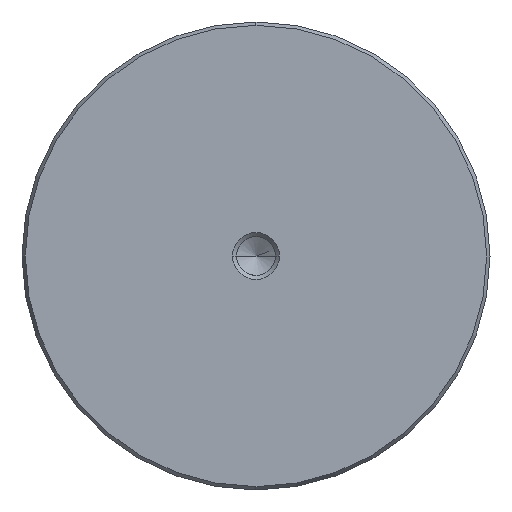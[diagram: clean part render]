
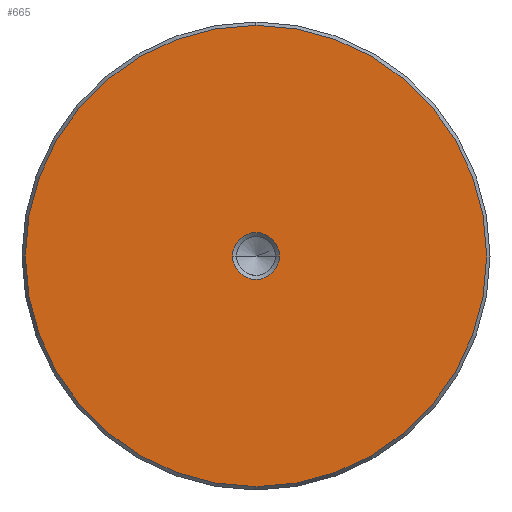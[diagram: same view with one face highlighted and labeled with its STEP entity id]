
A CAD part, left-side view. The second image highlights one B-rep face of the part: STEP entity #665.
In plain terms, the highlighted planar face has unit normal (-1, 0, 0).
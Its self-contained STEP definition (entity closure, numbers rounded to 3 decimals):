
#579=CARTESIAN_POINT('Vertex',(0.,0.,-39.423)) ;
#582=CARTESIAN_POINT('Axis2P3D Location',(0.,0.,0.)) ;
#586=CARTESIAN_POINT('Vertex',(0.,39.423,0.)) ;
#589=CARTESIAN_POINT('Axis2P3D Location',(0.,0.,0.)) ;
#593=CARTESIAN_POINT('Vertex',(0.,0.,39.423)) ;
#615=CARTESIAN_POINT('Axis2P3D Location',(0.,0.,0.)) ;
#619=CARTESIAN_POINT('Vertex',(0.,-39.423,0.)) ;
#622=CARTESIAN_POINT('Axis2P3D Location',(0.,0.,0.)) ;
#636=CARTESIAN_POINT('Axis2P3D Location',(0.,0.,0.)) ;
#647=CARTESIAN_POINT('Axis2P3D Location',(0.,0.,0.)) ;
#651=CARTESIAN_POINT('Vertex',(0.,4.,0.)) ;
#653=CARTESIAN_POINT('Vertex',(0.,-4.,0.)) ;
#656=CARTESIAN_POINT('Axis2P3D Location',(0.,0.,0.)) ;
#583=DIRECTION('Axis2P3D Direction',(1.,0.,-0.)) ;
#590=DIRECTION('Axis2P3D Direction',(1.,0.,-0.)) ;
#616=DIRECTION('Axis2P3D Direction',(1.,0.,-0.)) ;
#623=DIRECTION('Axis2P3D Direction',(1.,0.,-0.)) ;
#637=DIRECTION('Axis2P3D Direction',(1.,0.,-0.)) ;
#638=DIRECTION('Axis2P3D XDirection',(-0.,0.,-1.)) ;
#648=DIRECTION('Axis2P3D Direction',(1.,0.,-0.)) ;
#657=DIRECTION('Axis2P3D Direction',(1.,0.,-0.)) ;
#584=AXIS2_PLACEMENT_3D('Circle Axis2P3D',#582,#583,$) ;
#591=AXIS2_PLACEMENT_3D('Circle Axis2P3D',#589,#590,$) ;
#617=AXIS2_PLACEMENT_3D('Circle Axis2P3D',#615,#616,$) ;
#624=AXIS2_PLACEMENT_3D('Circle Axis2P3D',#622,#623,$) ;
#639=AXIS2_PLACEMENT_3D('Plane Axis2P3D',#636,#637,#638) ;
#649=AXIS2_PLACEMENT_3D('Circle Axis2P3D',#647,#648,$) ;
#658=AXIS2_PLACEMENT_3D('Circle Axis2P3D',#656,#657,$) ;
#642=ORIENTED_EDGE('',*,*,#588,.F.) ;
#643=ORIENTED_EDGE('',*,*,#626,.F.) ;
#644=ORIENTED_EDGE('',*,*,#621,.F.) ;
#645=ORIENTED_EDGE('',*,*,#595,.F.) ;
#662=ORIENTED_EDGE('',*,*,#655,.T.) ;
#663=ORIENTED_EDGE('',*,*,#660,.T.) ;
#664=FACE_BOUND('',#661,.T.) ;
#665=ADVANCED_FACE('720-80x500',(#646,#664),#640,.F.) ;
#585=CIRCLE('generated circle',#584,39.423) ;
#592=CIRCLE('generated circle',#591,39.423) ;
#618=CIRCLE('generated circle',#617,39.423) ;
#625=CIRCLE('generated circle',#624,39.423) ;
#650=CIRCLE('generated circle',#649,4.) ;
#659=CIRCLE('generated circle',#658,4.) ;
#588=EDGE_CURVE('',#580,#587,#585,.T.) ;
#595=EDGE_CURVE('',#587,#594,#592,.T.) ;
#621=EDGE_CURVE('',#594,#620,#618,.T.) ;
#626=EDGE_CURVE('',#620,#580,#625,.T.) ;
#655=EDGE_CURVE('',#652,#654,#650,.T.) ;
#660=EDGE_CURVE('',#654,#652,#659,.T.) ;
#641=EDGE_LOOP('',(#642,#643,#644,#645)) ;
#661=EDGE_LOOP('',(#662,#663)) ;
#646=FACE_OUTER_BOUND('',#641,.T.) ;
#640=PLANE('Plane',#639) ;
#580=VERTEX_POINT('',#579) ;
#587=VERTEX_POINT('',#586) ;
#594=VERTEX_POINT('',#593) ;
#620=VERTEX_POINT('',#619) ;
#652=VERTEX_POINT('',#651) ;
#654=VERTEX_POINT('',#653) ;
